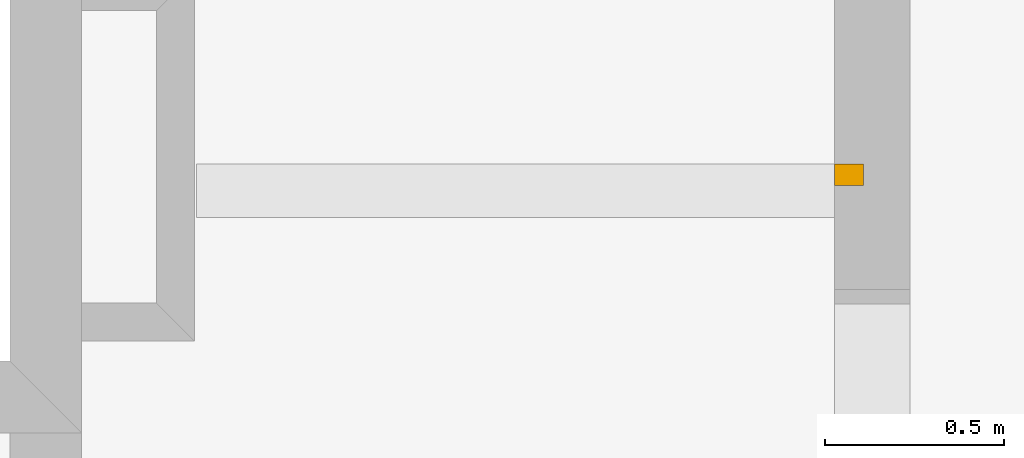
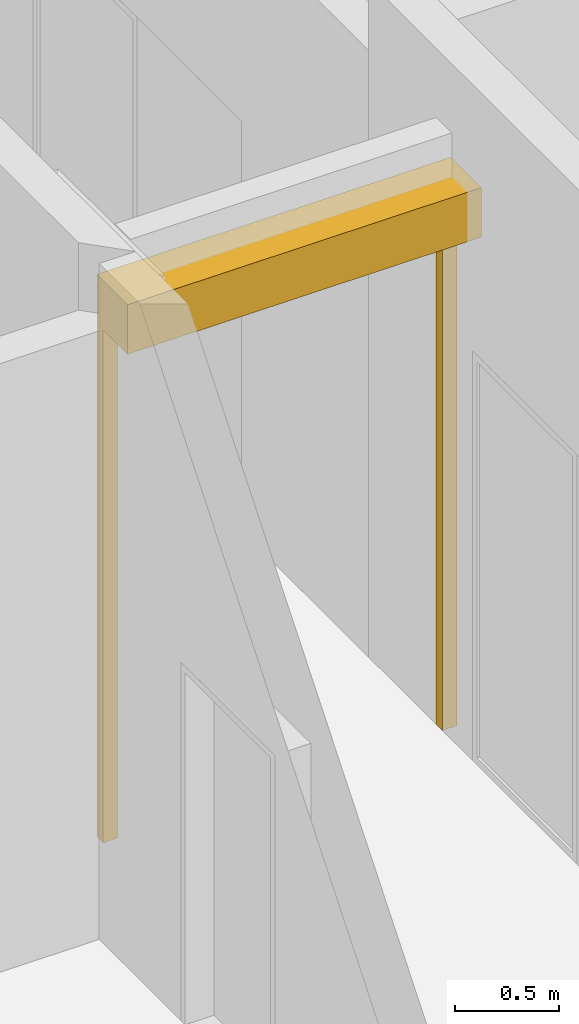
# One storey, part 82 of 89: 1 door.
"""IFC2X3 building model written with IfcOpenShell, lengths in millimetres."""

from ifc_helpers import new_model, entity, si_unit, converted_unit, derived_unit, money_unit, direction, frame, origin_with_axes, place, context, subcontext, project, spatial, faceted_brep, material, type_object, element, save


model = new_model("IFC2X3")

# Units and contexts
model_context = context("Model", 3, precision=0.01, world=origin_with_axes(), true_north=direction((0.0, 1.0)))
body_context = subcontext(model_context, "Body", "Model", "MODEL_VIEW")
ifc_project = project(units=[si_unit("LENGTHUNIT", "METRE", prefix="MILLI"), si_unit("AREAUNIT", "SQUARE_METRE"), si_unit("VOLUMEUNIT", "CUBIC_METRE"), converted_unit("PLANEANGLEUNIT", "DEGREE", entity("IfcPlaneAngleMeasure", 0.0174532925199), si_unit("PLANEANGLEUNIT", "RADIAN"), dimensions=[0, 0, 0, 0, 0, 0, 0]), si_unit("SOLIDANGLEUNIT", "STERADIAN"), money_unit("EUR"), converted_unit("TIMEUNIT", "Year", entity("IfcTimeMeasure", 31556926.0), si_unit("TIMEUNIT", "SECOND"), dimensions=[0, 0, 1, 0, 0, 0, 0]), si_unit("MASSUNIT", "GRAM", prefix="KILO"), si_unit("THERMODYNAMICTEMPERATUREUNIT", "DEGREE_CELSIUS"), si_unit("LUMINOUSINTENSITYUNIT", "LUMEN"), si_unit("ENERGYUNIT", "JOULE", prefix="MEGA"), derived_unit("THERMALCONDUCTANCEUNIT", [(si_unit("POWERUNIT", "WATT"), 1), (si_unit("LENGTHUNIT", "METRE"), -1), (si_unit("THERMODYNAMICTEMPERATUREUNIT", "KELVIN"), -1)]), derived_unit("SPECIFICHEATCAPACITYUNIT", [(si_unit("ENERGYUNIT", "JOULE"), 1), (si_unit("MASSUNIT", "GRAM", prefix="KILO"), -1), (si_unit("THERMODYNAMICTEMPERATUREUNIT", "KELVIN"), -1)]), derived_unit("MASSDENSITYUNIT", [(si_unit("MASSUNIT", "GRAM", prefix="KILO"), 1), (si_unit("VOLUMEUNIT", "CUBIC_METRE"), -1)])], contexts=[model_context])

# Site, building, storey
site_placement = place(None, origin_with_axes())
site = spatial("IfcSite", under=ifc_project, at=site_placement, Name="Puškini 31, Narva", CompositionType="ELEMENT")
building_placement = place(site_placement, origin_with_axes())
building = spatial("IfcBuilding", under=site, at=building_placement, Name="Narva Riigigümnaasium", CompositionType="ELEMENT")
storey_placement = place(building_placement, frame((0.0, 0.0, -3300.0), z_axis=(0.0, 0.0, 1.0), x_axis=(1.0, 0.0, 0.0)))
storey = spatial("IfcBuildingStorey", under=building, at=storey_placement, Name="1.korrus -3.3", CompositionType="ELEMENT", Elevation=-3300.0)

# Door
ifc_material = material(Name="ET-05_Teras")
door_style = type_object("IfcDoorStyle", Name="TTK-7", ConstructionType="NOTDEFINED", OperationType="NOTDEFINED", ParameterTakesPrecedence=False, Sizeable=False)
door_placement = place(storey_placement, frame((45620.0002223, 205955.0, 0.0), z_axis=(0.0, 0.0, 1.0), x_axis=(1.0, 0.0, 0.0)))
element("IfcDoor", 1, at=door_placement, inside=storey, type_object=door_style, material=ifc_material, Name="Tuletõkkekardin", ObjectType="DOOR", context=body_context, shape_type="Brep", body=[
    faceted_brep([(80.0, 295.0, 0.0), (0.0, 295.0, 0.0), (0.0, 295.0, 3294.5), (80.0, 295.0, 3294.5), (80.0, 234.8205699, 0.0), (0.0, 234.8205699, 0.0), (0.0, 234.8205699, 3294.5), (80.0, 234.8205699, 3294.5)], [[[0, 1, 2, 3]], [[0, 4, 5, 1]], [[1, 5, 6, 2]], [[3, 2, 6, 7]], [[4, 0, 3, 7]], [[5, 4, 7, 6]]]),
    faceted_brep([(1959.99988526, 295.0, 0.0), (1879.99988526, 295.0, 0.0), (1879.99988526, 295.0, 3294.5), (1959.99988526, 295.0, 3294.5), (1959.99988526, 234.8205699, 0.0), (1879.99988526, 234.8205699, 0.0), (1879.99988526, 234.8205699, 3294.5), (1959.99988526, 234.8205699, 3294.5)], [[[0, 1, 2, 3]], [[0, 4, 5, 1]], [[1, 5, 6, 2]], [[3, 2, 6, 7]], [[4, 0, 3, 7]], [[5, 4, 7, 6]]]),
    faceted_brep([(1959.99988526, 295.0, 3004.5), (0.000114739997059, 295.0, 3004.5), (0.000114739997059, 295.0, 3294.5), (1959.99988526, 295.0, 3294.5), (1959.99988526, 0.0, 3004.5), (0.000114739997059, 0.0, 3004.5), (0.000114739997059, 0.0, 3294.5), (1959.99988526, 0.0, 3294.5)], [[[0, 1, 2, 3]], [[0, 4, 5, 1]], [[1, 5, 6, 2]], [[3, 2, 6, 7]], [[4, 0, 3, 7]], [[5, 4, 7, 6]]]),
])

save(model, "model.ifc")
